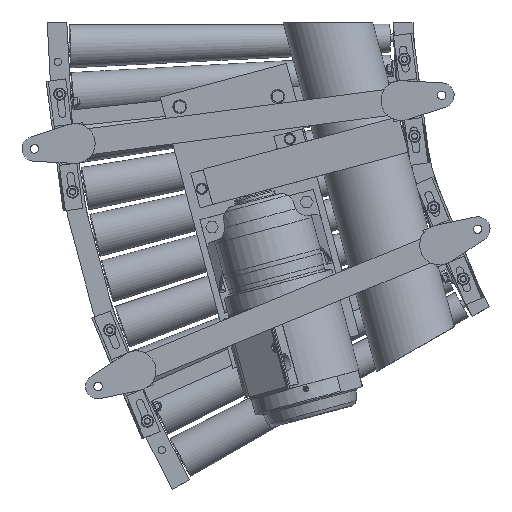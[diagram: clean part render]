
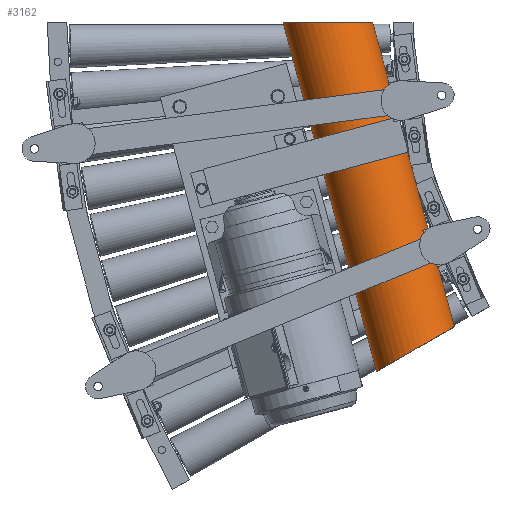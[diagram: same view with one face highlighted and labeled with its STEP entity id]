
A CAD part, front view. The second image highlights one B-rep face of the part: STEP entity #3162.
In plain terms, the highlighted cylindrical face has radius 66.3 mm (diameter 132.6 mm), a partial arc.
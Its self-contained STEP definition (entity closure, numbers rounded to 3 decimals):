
#3162=ADVANCED_FACE('',(#17194),#17193,.T.);
#17193=CYLINDRICAL_SURFACE('',#38457,66.3);
#17194=FACE_OUTER_BOUND('',#38458,.T.);
#38454=CARTESIAN_POINT('',(145.062,-151.7,17.16));
#38455=DIRECTION('',(-0.259,0.,0.966));
#38456=DIRECTION('',(0.966,0.,0.259));
#38457=AXIS2_PLACEMENT_3D('',#38454,#38455,#38456);
#38458=EDGE_LOOP('',(#51870,#51871,#51872,#51873));
#51870=ORIENTED_EDGE('',*,*,#61880,.F.);
#51871=ORIENTED_EDGE('',*,*,#61881,.F.);
#51872=ORIENTED_EDGE('',*,*,#61882,.F.);
#51873=ORIENTED_EDGE('',*,*,#61883,.F.);
#61880=EDGE_CURVE('',#85581,#85582,#85583,.T.);
#61881=EDGE_CURVE('',#85589,#85581,#85590,.T.);
#61882=EDGE_CURVE('',#85596,#85589,#85597,.T.);
#61883=EDGE_CURVE('',#85582,#85596,#85603,.T.);
#85581=VERTEX_POINT('',#124169);
#85582=VERTEX_POINT('',#124170);
#85583=(BOUNDED_CURVE() B_SPLINE_CURVE(2,(#124171,#124172,#124173,#124174,#124175),.UNSPECIFIED.,.F.,.F.) B_SPLINE_CURVE_WITH_KNOTS((3,2,3),(-3.142,-1.571,0.),.UNSPECIFIED.) CURVE() GEOMETRIC_REPRESENTATION_ITEM() RATIONAL_B_SPLINE_CURVE((1.,0.707,1.,0.707,1.)) REPRESENTATION_ITEM('') );
#85589=VERTEX_POINT('',#124176);
#85590=LINE('',#124177,#124178);
#85596=VERTEX_POINT('',#124180);
#85597=(BOUNDED_CURVE() B_SPLINE_CURVE(2,(#124181,#124182,#124183,#124184,#124185),.UNSPECIFIED.,.F.,.F.) B_SPLINE_CURVE_WITH_KNOTS((3,2,3),(-3.142,-1.571,0.),.UNSPECIFIED.) CURVE() GEOMETRIC_REPRESENTATION_ITEM() RATIONAL_B_SPLINE_CURVE((1.,0.707,1.,0.707,1.)) REPRESENTATION_ITEM('') );
#85603=LINE('',#124186,#124187);
#124169=CARTESIAN_POINT('',(343.123,-151.7,-465.85));
#124170=CARTESIAN_POINT('',(224.237,-151.7,-534.489));
#124171=CARTESIAN_POINT('',(343.123,-151.7,-465.85));
#124172=CARTESIAN_POINT('',(343.123,-218.,-465.85));
#124173=CARTESIAN_POINT('',(283.68,-218.,-500.17));
#124174=CARTESIAN_POINT('',(224.237,-218.,-534.489));
#124175=CARTESIAN_POINT('',(224.237,-151.7,-534.489));
#124176=CARTESIAN_POINT('',(218.299,-151.7,0.));
#124177=CARTESIAN_POINT('',(218.299,-151.7,0.));
#124178=VECTOR('',#124179,482.284);
#124179=DIRECTION('',(0.259,0.,-0.966));
#124180=CARTESIAN_POINT('',(81.022,-151.7,0.));
#124181=CARTESIAN_POINT('',(81.022,-151.7,0.));
#124182=CARTESIAN_POINT('',(81.022,-218.,0.));
#124183=CARTESIAN_POINT('',(149.66,-218.,0.));
#124184=CARTESIAN_POINT('',(218.299,-218.,0.));
#124185=CARTESIAN_POINT('',(218.299,-151.7,0.));
#124186=CARTESIAN_POINT('',(224.237,-151.7,-534.489));
#124187=VECTOR('',#124188,553.344);
#124188=DIRECTION('',(-0.259,0.,0.966));
